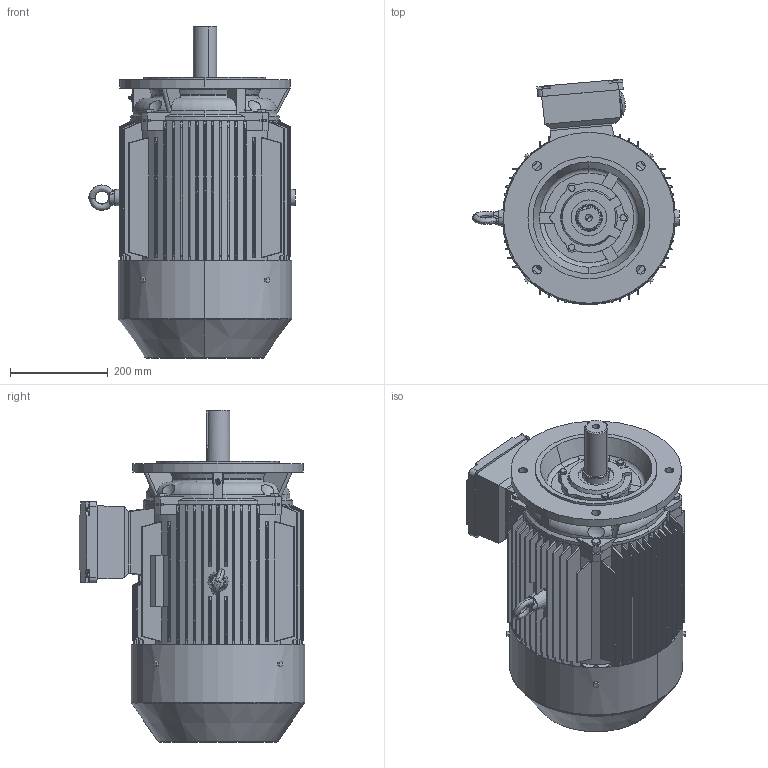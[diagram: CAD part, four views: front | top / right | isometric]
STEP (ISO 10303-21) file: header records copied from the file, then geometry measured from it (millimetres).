
FILE_DESCRIPTION (( 'STEP AP203' ), '1' );
FILE_NAME ('TE3-180M-4 B5 2018.STEP', '2019-11-19T03:22:11', ( '微软用户' ), ( '微软中国' ), 'SwSTEP 2.0', 'SolidWorks 2012', '' );
FILE_SCHEMA (( 'CONFIG_CONTROL_DESIGN' ));
Products named in the file (14): TE3-180M-4 B5 2018; 蚐戚; hexagon head bolts gb_GB_FASTENER_BOLT_SB A M8X40-N; hexagon head bolts-full thread gb_GB_FASTENER_BOLT_STBAB A M10X20-N; 5EJ.354.484GX160~180P24諉盄碟; hexagon head bolts-full thread gb_GB_FASTENER_BOLT_STBAB A M6X12-N; 8EJ.353.10053GX160~180P24諉盄碟裔; 8EJ.354.593Y2-160~180P24諉盄碟釱; eyebolts gb_GB_FASTENER_SCREWS_FRS M12-N; YX3-180 粣ㄗ粣扥ㄘ; YX3-180-4,6,8粣創俋裔; YX3-180 瑞欶; Y2-180-4,6,8芧埽傷裔017.00089; Y2-180M B5奻 儂釱
Assembly tree (21 placements, depth 3):
  TE3-180M-4 B5 2018
    Y2-180M B5奻 儂釱
    Y2-180-4,6,8芧埽傷裔017.00089
    YX3-180 瑞欶
    YX3-180-4,6,8粣創俋裔
    YX3-180 粣ㄗ粣扥ㄘ
    eyebolts gb_GB_FASTENER_SCREWS_FRS M12-N
    5EJ.354.484GX160~180P24諉盄碟
      8EJ.354.593Y2-160~180P24諉盄碟釱
      8EJ.353.10053GX160~180P24諉盄碟裔
      hexagon head bolts-full thread gb_GB_FASTENER_BOLT_STBAB A M6X12-N  x4
    hexagon head bolts-full thread gb_GB_FASTENER_BOLT_STBAB A M10X20-N  x4
    hexagon head bolts gb_GB_FASTENER_BOLT_SB A M8X40-N  x3
    蚐戚
Bounding box: 423.1 x 461.54 x 680 mm (x, y, z)
Volume: 32938401.7 mm3; surface area: 2436880.2 mm2
Topology: 21 solids, 22 shells, 3165 faces, 8267 edges, 5439 vertices
Faces by surface type: plane 1562, cylinder 1183, cone 323, torus 67, bspline 22, sphere 8
Entity records: 99859 total; most frequent: CARTESIAN_POINT 24166, ORIENTED_EDGE 15504, DIRECTION 15465, EDGE_CURVE 7752, AXIS2_PLACEMENT_3D 5526, VERTEX_POINT 5124, LINE 4413, VECTOR 4413
